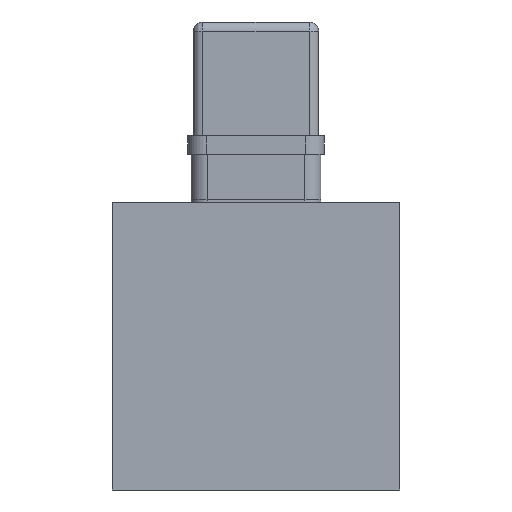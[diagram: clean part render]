
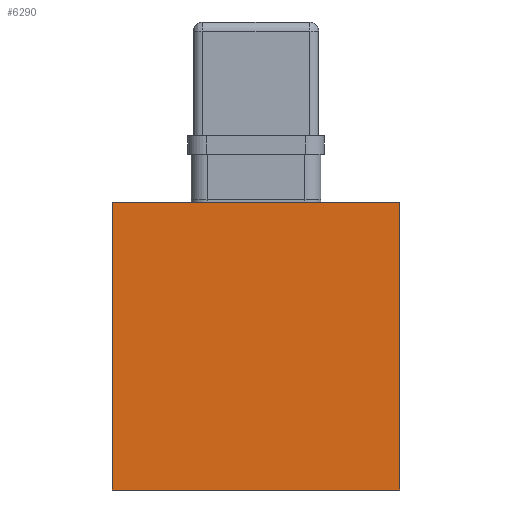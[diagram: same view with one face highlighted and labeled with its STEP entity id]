
A CAD part, left-side view. The second image highlights one B-rep face of the part: STEP entity #6290.
In plain terms, the highlighted planar face has unit normal (-1, 0, 0).
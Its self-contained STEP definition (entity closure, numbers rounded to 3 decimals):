
#1234 = VECTOR ( 'NONE', #16300, 1000. ) ;
#2982 = LINE ( 'NONE', #18990, #14391 ) ;
#4201 = VERTEX_POINT ( 'NONE', #19790 ) ;
#4533 = VECTOR ( 'NONE', #20421, 1000. ) ;
#5894 = CARTESIAN_POINT ( 'NONE',  ( 0., -31., 31. ) ) ;
#6290 = ADVANCED_FACE ( 'NONE', ( #24163 ), #27422, .T. ) ;
#7187 = ORIENTED_EDGE ( 'NONE', *, *, #12812, .F. ) ;
#8053 = ORIENTED_EDGE ( 'NONE', *, *, #8217, .F. ) ;
#8217 = EDGE_CURVE ( 'NONE', #28548, #21139, #20101, .T. ) ;
#8347 = LINE ( 'NONE', #15935, #20444 ) ;
#9545 = CARTESIAN_POINT ( 'NONE',  ( 0., 31., -31. ) ) ;
#11086 = EDGE_LOOP ( 'NONE', ( #27986, #8053, #17929, #7187 ) ) ;
#11832 = DIRECTION ( 'NONE',  ( 0., 0., 1. ) ) ;
#12168 = AXIS2_PLACEMENT_3D ( 'NONE', #9545, #25445, #11832 ) ;
#12812 = EDGE_CURVE ( 'NONE', #27463, #4201, #8347, .T. ) ;
#14391 = VECTOR ( 'NONE', #14545, 1000. ) ;
#14545 = DIRECTION ( 'NONE',  ( 0., -1., 0. ) ) ;
#15327 = CARTESIAN_POINT ( 'NONE',  ( 0., 31., -31. ) ) ;
#15935 = CARTESIAN_POINT ( 'NONE',  ( 0., 31., 31. ) ) ;
#15960 = CARTESIAN_POINT ( 'NONE',  ( 0., -31., -31. ) ) ;
#16300 = DIRECTION ( 'NONE',  ( 0., 0., -1. ) ) ;
#17929 = ORIENTED_EDGE ( 'NONE', *, *, #18101, .F. ) ;
#18026 = DIRECTION ( 'NONE',  ( 0., 0., 1. ) ) ;
#18101 = EDGE_CURVE ( 'NONE', #4201, #28548, #2982, .T. ) ;
#18990 = CARTESIAN_POINT ( 'NONE',  ( 0., -31., 31. ) ) ;
#19790 = CARTESIAN_POINT ( 'NONE',  ( 0., 31., 31. ) ) ;
#20101 = LINE ( 'NONE', #20903, #1234 ) ;
#20421 = DIRECTION ( 'NONE',  ( 0., 1., 0. ) ) ;
#20444 = VECTOR ( 'NONE', #18026, 1000. ) ;
#20903 = CARTESIAN_POINT ( 'NONE',  ( 0., -31., 31. ) ) ;
#21139 = VERTEX_POINT ( 'NONE', #22897 ) ;
#21997 = LINE ( 'NONE', #15960, #4533 ) ;
#22732 = EDGE_CURVE ( 'NONE', #21139, #27463, #21997, .T. ) ;
#22897 = CARTESIAN_POINT ( 'NONE',  ( 0., -31., -31. ) ) ;
#24163 = FACE_OUTER_BOUND ( 'NONE', #11086, .T. ) ;
#25445 = DIRECTION ( 'NONE',  ( -1., 0., 0. ) ) ;
#27422 = PLANE ( 'NONE',  #12168 ) ;
#27463 = VERTEX_POINT ( 'NONE', #15327 ) ;
#27986 = ORIENTED_EDGE ( 'NONE', *, *, #22732, .F. ) ;
#28548 = VERTEX_POINT ( 'NONE', #5894 ) ;
